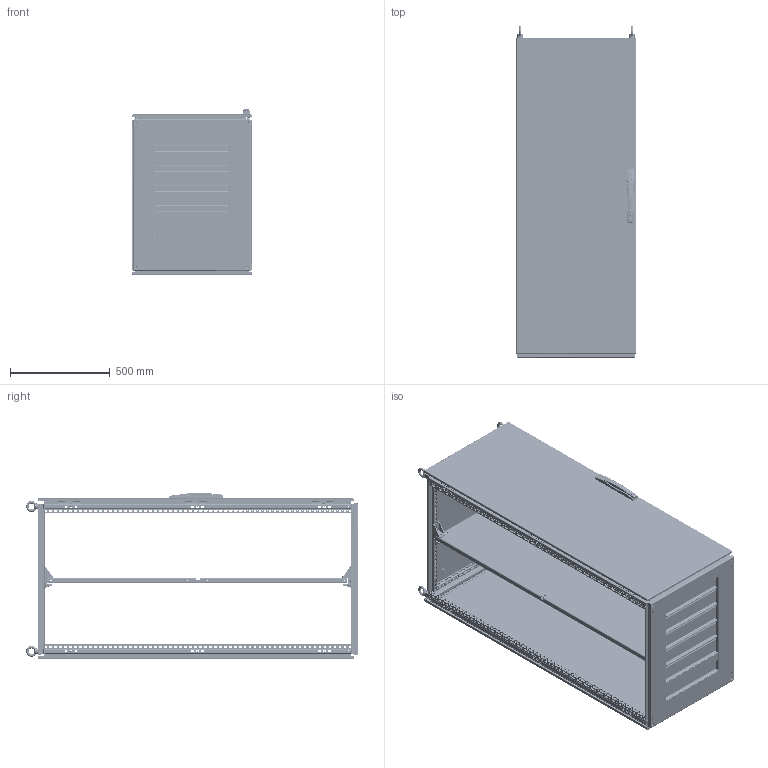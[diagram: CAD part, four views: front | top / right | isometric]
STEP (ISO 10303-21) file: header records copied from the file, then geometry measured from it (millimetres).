
FILE_DESCRIPTION (( 'STEP AP203' ), '1' );
FILE_NAME ('p2k1668.STEP', '2016-09-15T16:15:24', ( '' ), ( '' ), 'SwSTEP 2.0', 'SolidWorks 2014', '' );
FILE_SCHEMA (( 'CONFIG_CONTROL_DESIGN' ));
Length unit declared in the file: millimetre
Products named in the file (86): 11358765; 89127371_2000x600; 11358764; 89126108; 11158133_11581133; 89128805; 89128286_89001805; 60127172_60127172; 89134078_60127430; 89122652; 46120001_Compressed; 87931527_87931527; 11258013; 89126109; 89128799; 60127175_60127175; 89128285; 87920638_87920638; 89128849_BBD; 89124210_89124210; 51223001; 87931368_SLEEVE; 11258012; 89128050; 51232001_51232001; 60127140_60127140; 89128231; 89128774_89128774; 89124192_89124192; 89122602; 51138001_Compressed; 60100041_60100041; 11358763; 89128305; 60127173_60127173; 60127138_60127138; 89128232; 89091664_875472289; 89124191_89124191; 87790199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
Assembly tree (182 placements, depth 5):
  p2k1668
    89128305
      60127013  x8
      89128036  x4
      89126103  x4
      89126105  x4
      89126108  x4
      89126109  x4
      89128050  x4
    89124255_89124255  x6
      89124256_89124256
      89124408_89124408
      89133232_Cometic Threads
    89127284
      89127318
        89127371_2000x600
        60100041_60100041  x2
          87931527_87931527
          87931368_SLEEVE
      89127400_87934847
    89126628
    89120016  x4
    89122652  x4
    89124209_Installed LH Bot side - pin in  x3
      89124210_89124210
      89122602
      87790199
      89124407
      89133232_Cometic Threads
    89128849_BBD
      89128774_89128774
        89128789_89128789
        60100041_60100041  x2
          87931527_87931527
          87931368_SLEEVE
        89124458_After Weld  x3
        60127172_60127172  x3
        87920638_87920638  x16
      89128831_89128831
        89091664_875472289  x4
        89124179_89124179  x2
        89126142_89124180  x2
      89128816_89128816
      89128799
        89128805
        60127175_60127175  x2
        60127216_60127216  x3
          60127140_60127140
          60127138_60127138
          87576035_87576035
        60127139_60127139  x4
        11158132_THIKNESS .155 FIXED  x8
        11158133_11581133  x3
      60127277_60127277  x3
        51232001_51232001
        60127173_60127173
      89134078_60127430
        11458037
        11458036
        51140001
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Bounding box: 598.8 x 1661.13 x 832.69 mm (x, y, z)
Volume: 13405920.3 mm3; surface area: 13143591.4 mm2
Topology: 194 solids, 194 shells, 20470 faces, 55175 edges, 35231 vertices
Faces by surface type: plane 10905, cylinder 7095, torus 1120, cone 646, bspline 623, sphere 81
Entity records: 260561 total; most frequent: CARTESIAN_POINT 59620, ORIENTED_EDGE 39320, DIRECTION 38989, EDGE_CURVE 19660, AXIS2_PLACEMENT_3D 13512, VERTEX_POINT 12511, VECTOR 11965, LINE 11965
